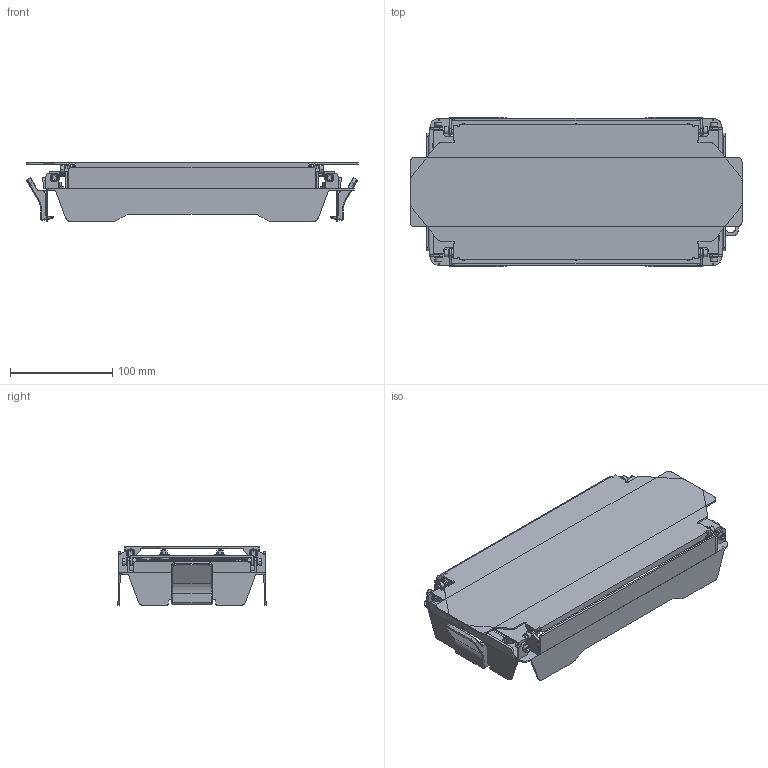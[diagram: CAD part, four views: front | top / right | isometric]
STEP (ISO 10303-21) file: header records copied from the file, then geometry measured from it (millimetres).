
FILE_DESCRIPTION(/* description */ (''),/* implementation_level */ '2;1');
FILE_NAME(/* name */ 'ROXX_NEO mini_Barndoor_3D_step',/* time_stamp */ '2025-03-14T12:39:34+01:00',/* author */ (''),/* organization */ (''),/* preprocessor_version */ 'ST-DEVELOPER v16.5',/* originating_system */ 'Rhino 7.38',/* authorisation */ '');
FILE_SCHEMA (('CONFIG_CONTROL_DESIGN'));
Length unit declared in the file: millimetre
Products named in the file (1): Document
Bounding box: 324 x 144.65 x 57 mm (x, y, z)
Volume: 267878.1 mm3; surface area: 348965 mm2
Topology: 43 solids, 45 shells, 1963 faces, 4942 edges, 3116 vertices
Faces by surface type: plane 823, cylinder 580, bspline 560
Entity records: 76923 total; most frequent: CARTESIAN_POINT 45086, ORIENTED_EDGE 9860, EDGE_CURVE 4942, B_SPLINE_CURVE_WITH_KNOTS 3314, VERTEX_POINT 3116, EDGE_LOOP 2124, ADVANCED_FACE 1963, FACE_OUTER_BOUND 1963
